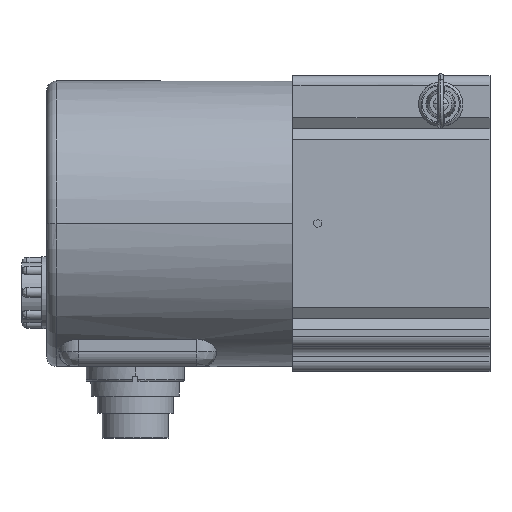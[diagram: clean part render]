
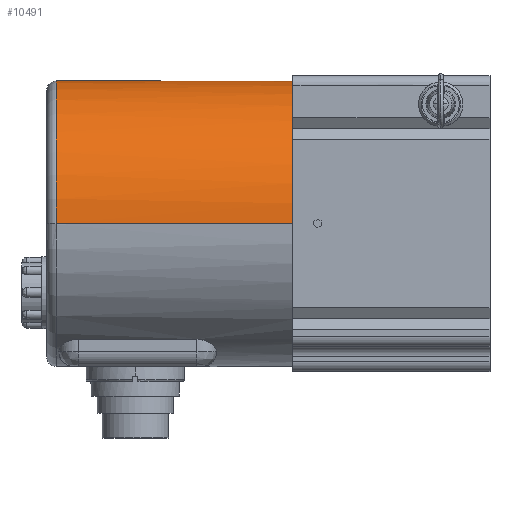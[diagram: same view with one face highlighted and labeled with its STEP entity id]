
A CAD part, top view. The second image highlights one B-rep face of the part: STEP entity #10491.
In plain terms, the highlighted cylindrical face has radius 29 mm (diameter 58 mm), a partial arc.
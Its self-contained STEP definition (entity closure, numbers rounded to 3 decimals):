
#15=CARTESIAN_POINT('',(-40.,0.,0.));
#16=DIRECTION('',(1.,0.,0.));
#17=DIRECTION('',(0.,0.537,0.843));
#18=AXIS2_PLACEMENT_3D('',#15,#16,#17);
#102=CARTESIAN_POINT('',(-40.,0.,0.));
#103=DIRECTION('',(1.,0.,0.));
#104=DIRECTION('',(0.,0.,-1.));
#105=AXIS2_PLACEMENT_3D('',#102,#103,#104);
#107=CARTESIAN_POINT('',(-40.,0.,0.));
#108=DIRECTION('',(1.,0.,0.));
#109=DIRECTION('',(0.,0.593,-0.805));
#110=AXIS2_PLACEMENT_3D('',#107,#108,#109);
#143=CARTESIAN_POINT('',(-40.,0.,0.));
#144=DIRECTION('',(1.,0.,0.));
#145=DIRECTION('',(0.,0.843,-0.537));
#146=AXIS2_PLACEMENT_3D('',#143,#144,#145);
#241=DIRECTION('',(-1.,0.,0.));
#242=VECTOR('',#241,48.);
#243=CARTESIAN_POINT('',(-40.,0.,-29.));
#244=LINE('',#243,#242);
#1140=CARTESIAN_POINT('',(-40.,0.,0.));
#1141=DIRECTION('',(-1.,0.,0.));
#1142=DIRECTION('',(0.,0.537,0.843));
#1143=AXIS2_PLACEMENT_3D('',#1140,#1141,#1142);
#1166=CARTESIAN_POINT('',(-40.,0.,0.));
#1167=DIRECTION('',(-1.,0.,0.));
#1168=DIRECTION('',(0.,0.843,-0.537));
#1169=AXIS2_PLACEMENT_3D('',#1166,#1167,#1168);
#1179=CARTESIAN_POINT('',(-40.,0.,0.));
#1180=DIRECTION('',(-1.,0.,0.));
#1181=DIRECTION('',(0.,0.593,-0.805));
#1182=AXIS2_PLACEMENT_3D('',#1179,#1180,#1181);
#3215=DIRECTION('',(-1.,0.,0.));
#3216=VECTOR('',#3215,48.);
#3217=CARTESIAN_POINT('',(-40.,0.,29.));
#3218=LINE('',#3217,#3216);
#3224=CARTESIAN_POINT('',(-88.,0.,0.));
#3225=DIRECTION('',(1.,0.,0.));
#3226=DIRECTION('',(0.,0.,-1.));
#3227=AXIS2_PLACEMENT_3D('',#3224,#3225,#3226);
#3229=CARTESIAN_POINT('',(-88.,0.,0.));
#3230=DIRECTION('',(1.,0.,0.));
#3231=DIRECTION('',(0.,0.008,-1.));
#3232=AXIS2_PLACEMENT_3D('',#3229,#3230,#3231);
#5564=CARTESIAN_POINT('',(-88.,0.,-29.));
#5565=VERTEX_POINT('',#5564);
#5566=CARTESIAN_POINT('',(-88.,0.218,-28.999));
#5567=CARTESIAN_POINT('',(-88.,0.,29.));
#5568=VERTEX_POINT('',#5566);
#5569=VERTEX_POINT('',#5567);
#5658=CARTESIAN_POINT('',(-40.,0.,29.));
#5660=VERTEX_POINT('',#5658);
#5675=CARTESIAN_POINT('',(-40.,0.,-29.));
#5677=VERTEX_POINT('',#5675);
#5678=CARTESIAN_POINT('',(-40.,15.586,-24.456));
#5679=VERTEX_POINT('',#5678);
#5680=CARTESIAN_POINT('',(-40.,17.194,-23.353));
#5681=CARTESIAN_POINT('',(-40.,23.353,-17.194));
#5682=VERTEX_POINT('',#5680);
#5683=VERTEX_POINT('',#5681);
#5684=CARTESIAN_POINT('',(-40.,24.456,-15.586));
#5685=CARTESIAN_POINT('',(-40.,17.194,23.353));
#5686=VERTEX_POINT('',#5684);
#5687=VERTEX_POINT('',#5685);
#5688=CARTESIAN_POINT('',(-40.,15.586,24.456));
#5689=VERTEX_POINT('',#5688);
#10471=CARTESIAN_POINT('',(-90.,0.,0.));
#10472=DIRECTION('',(1.,0.,0.));
#10473=DIRECTION('',(0.,0.,-1.));
#10474=AXIS2_PLACEMENT_3D('',#10471,#10472,#10473);
#10475=CYLINDRICAL_SURFACE('',#10474,29.);
#10476=ORIENTED_EDGE('',*,*,#6388,.T.);
#10477=ORIENTED_EDGE('',*,*,#7814,.F.);
#10478=ORIENTED_EDGE('',*,*,#6398,.T.);
#10479=ORIENTED_EDGE('',*,*,#7800,.F.);
#10480=ORIENTED_EDGE('',*,*,#6442,.T.);
#10481=ORIENTED_EDGE('',*,*,#7773,.F.);
#10482=ORIENTED_EDGE('',*,*,#6236,.T.);
#10483=ORIENTED_EDGE('',*,*,#6491,.T.);
#10485=ORIENTED_EDGE('',*,*,#10484,.F.);
#10487=ORIENTED_EDGE('',*,*,#10486,.F.);
#10488=ORIENTED_EDGE('',*,*,#6485,.F.);
#10489=EDGE_LOOP('',(#10476,#10477,#10478,#10479,#10480,#10481,#10482,#10483,
#10485,#10487,#10488));
#10490=FACE_OUTER_BOUND('',#10489,.F.);
#10491=ADVANCED_FACE('',(#10490),#10475,.T.);
#19=CIRCLE('',#18,29.);
#106=CIRCLE('',#105,29.);
#111=CIRCLE('',#110,29.);
#147=CIRCLE('',#146,29.);
#1144=CIRCLE('',#1143,29.);
#1170=CIRCLE('',#1169,29.);
#1183=CIRCLE('',#1182,29.);
#3228=CIRCLE('',#3227,29.);
#3233=CIRCLE('',#3232,29.);
#6236=EDGE_CURVE('',#5689,#5660,#19,.T.);
#6388=EDGE_CURVE('',#5677,#5679,#106,.T.);
#6398=EDGE_CURVE('',#5682,#5683,#111,.T.);
#6442=EDGE_CURVE('',#5686,#5687,#147,.T.);
#6485=EDGE_CURVE('',#5677,#5565,#244,.T.);
#6491=EDGE_CURVE('',#5660,#5569,#3218,.T.);
#7773=EDGE_CURVE('',#5689,#5687,#1144,.T.);
#7800=EDGE_CURVE('',#5686,#5683,#1170,.T.);
#7814=EDGE_CURVE('',#5682,#5679,#1183,.T.);
#10484=EDGE_CURVE('',#5568,#5569,#3233,.T.);
#10486=EDGE_CURVE('',#5565,#5568,#3228,.T.);
